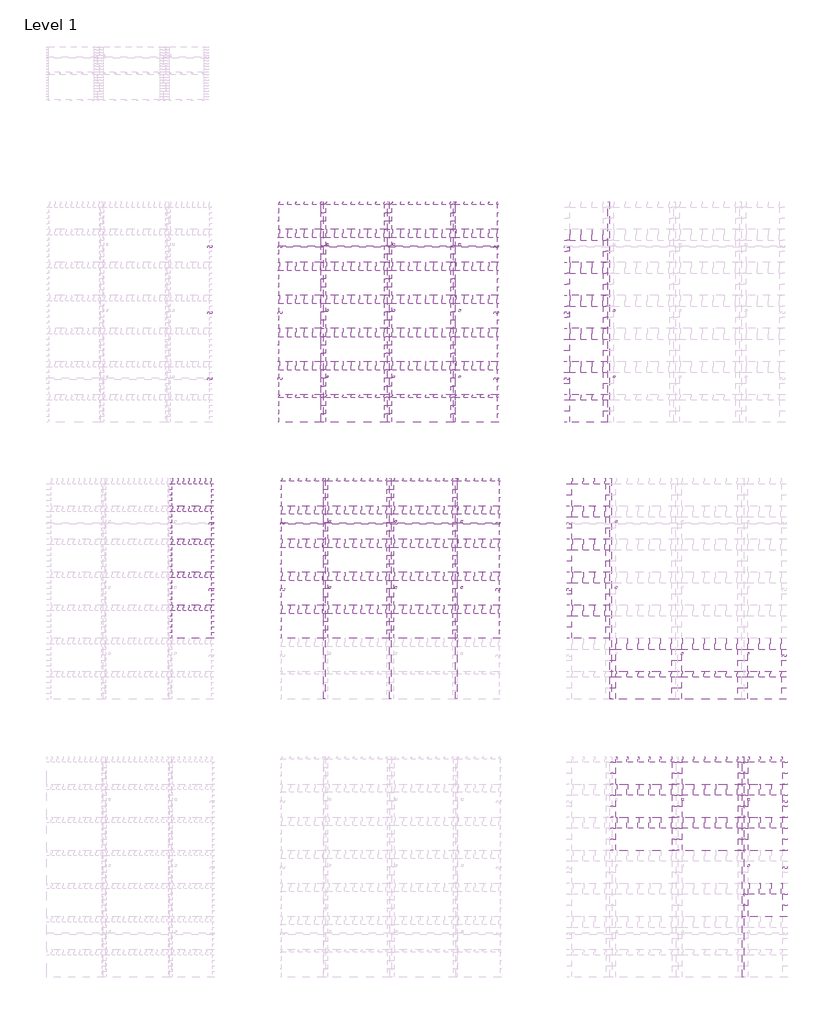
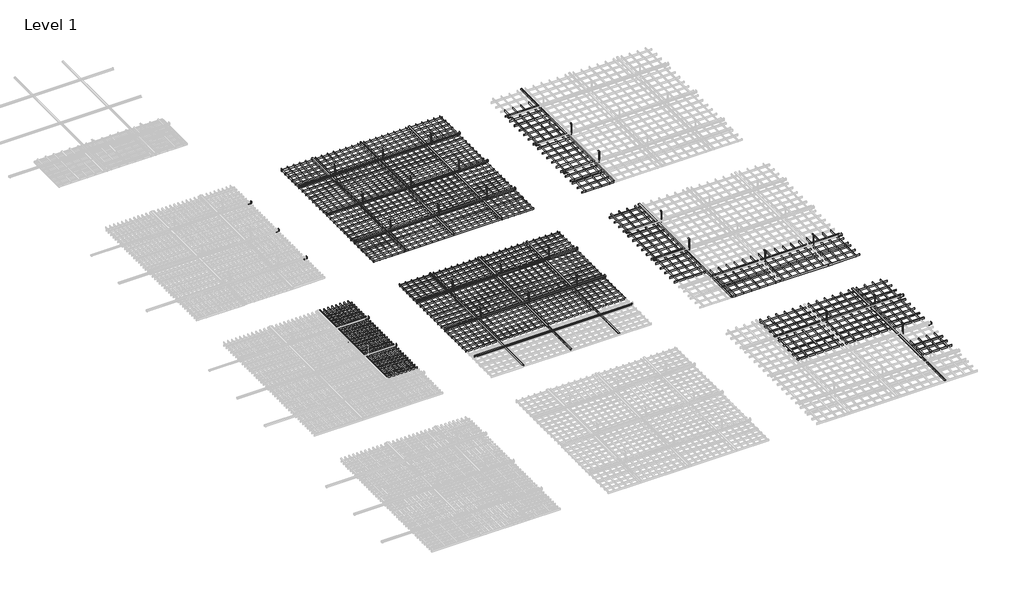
# One storey, part 14 of 32: 138 proxies.
"""IFC4 building model written with IfcOpenShell, lengths in millimetres."""

from ifc_helpers import new_model, si_unit, origin, place, context, project, spatial, transform, mapped, element, save
from components import generic_models_f4ce44e0, generic_models_375b31eb, generic_models_111ba9e5, generic_models_5e62fee5, generic_models_cd8084ed, generic_models_6ed68c57, generic_models_748fdbd1, generic_models_deb741b8, generic_models_ab05f4b6, generic_models_ed86a27e, generic_models_a98fa060, generic_models_6487c8f3, generic_models_493e9e8c, generic_models_892cdaf6, generic_models_71c4b85c, generic_models_6bcacae0, generic_models_22f2553a, generic_models_6d0d0a9c, generic_models_cc0eb073, generic_models_c5b66b1f, generic_models_3ca765b0, generic_models_711bea8a, generic_models_0913f8e8, generic_models_f6474ad0, generic_models_28f6a95c, generic_models_9e18e937

model = new_model("IFC4")

# Units and contexts
model_context = context("Model", 3, world=origin())
ifc_project = project(units=[si_unit("LENGTHUNIT", "METRE", prefix="MILLI")], contexts=[model_context])

# Site, building, storey
site = spatial("IfcSite", under=ifc_project)
building = spatial("IfcBuilding", under=site)
storey = spatial("IfcBuildingStorey", under=building, Name="Level 1", Elevation=0.0)

# Proxies
placement = place(None, origin())
generic_models_shape = generic_models_f4ce44e0(model_context)
element("IfcBuildingElementProxy", 1, Name="durlum_U94 : durlum_U94", ObjectType="durlum_U94 : durlum_U94", at=placement, inside=storey, context=model_context, shape_type="MappedRepresentation", body=[
    mapped(generic_models_shape, transform((51574.5159714, -2089.6204758, 3724.0), x_axis=(0.0, 1.0, 0.0), y_axis=(-1.0, 0.0, 0.0), z_axis=(0.0, 0.0, 1.0))),
])
element("IfcBuildingElementProxy", 2, Name="durlum_U94 : durlum_U94", ObjectType="durlum_U94 : durlum_U94", at=placement, inside=storey, context=model_context, shape_type="MappedRepresentation", body=[
    mapped(generic_models_shape, transform((50374.5159714, -2089.6204758, 3724.0), x_axis=(0.0, 1.0, 0.0), y_axis=(-1.0, 0.0, 0.0), z_axis=(0.0, 0.0, 1.0))),
])
element("IfcBuildingElementProxy", 3, Name="durlum_U94 : durlum_U94", ObjectType="durlum_U94 : durlum_U94", at=placement, inside=storey, context=model_context, shape_type="MappedRepresentation", body=[
    mapped(generic_models_shape, transform((52774.5159714, -2089.6204758, 3724.0), x_axis=(0.0, 1.0, 0.0), y_axis=(-1.0, 0.0, 0.0), z_axis=(0.0, 0.0, 1.0))),
])
element("IfcBuildingElementProxy", 4, Name="durlum_U94 : durlum_U94", ObjectType="durlum_U94 : durlum_U94", at=placement, inside=storey, context=model_context, shape_type="MappedRepresentation", body=[
    mapped(generic_models_shape, transform((51612.2666746, -7112.09776, 3724.0), x_axis=(0.0, 1.0, 0.0), y_axis=(-1.0, 0.0, 0.0), z_axis=(0.0, 0.0, 1.0))),
])
element("IfcBuildingElementProxy", 5, Name="durlum_U94 : durlum_U94", ObjectType="durlum_U94 : durlum_U94", at=placement, inside=storey, context=model_context, shape_type="MappedRepresentation", body=[
    mapped(generic_models_shape, transform((50412.2666746, -7112.09776, 3724.0), x_axis=(0.0, 1.0, 0.0), y_axis=(-1.0, 0.0, 0.0), z_axis=(0.0, 0.0, 1.0))),
])
element("IfcBuildingElementProxy", 6, Name="durlum_U94 : durlum_U94", ObjectType="durlum_U94 : durlum_U94", at=placement, inside=storey, context=model_context, shape_type="MappedRepresentation", body=[
    mapped(generic_models_shape, transform((52812.2666746, -7112.09776, 3724.0), x_axis=(0.0, 1.0, 0.0), y_axis=(-1.0, 0.0, 0.0), z_axis=(0.0, 0.0, 1.0))),
])
element("IfcBuildingElementProxy", 7, Name="durlum_U94 : durlum_U94", ObjectType="durlum_U94 : durlum_U94", at=placement, inside=storey, context=model_context, shape_type="MappedRepresentation", body=[
    mapped(generic_models_shape, transform((55574.5159714, -2089.6204758, 3724.0), x_axis=(0.0, 1.0, 0.0), y_axis=(-1.0, 0.0, 0.0), z_axis=(0.0, 0.0, 1.0))),
])
element("IfcBuildingElementProxy", 8, Name="durlum_U94 : durlum_U94", ObjectType="durlum_U94 : durlum_U94", at=placement, inside=storey, context=model_context, shape_type="MappedRepresentation", body=[
    mapped(generic_models_shape, transform((55612.2666746, -7112.09776, 3724.0), x_axis=(0.0, 1.0, 0.0), y_axis=(-1.0, 0.0, 0.0), z_axis=(0.0, 0.0, 1.0))),
])
element("IfcBuildingElementProxy", 9, Name="durlum_U94 : durlum_U94", ObjectType="durlum_U94 : durlum_U94", at=placement, inside=storey, context=model_context, shape_type="MappedRepresentation", body=[
    mapped(generic_models_shape, transform((58018.6409714, -12159.3698822, 3724.0), x_axis=(0.0, 1.0, 0.0), y_axis=(-1.0, 0.0, 0.0), z_axis=(0.0, 0.0, 1.0))),
])
generic_models_2_shape = generic_models_375b31eb(model_context)
element("IfcBuildingElementProxy", 10, Name="durlum_GEO_panel : durlum_GEO_9", ObjectType="durlum_GEO_panel : durlum_GEO_9", at=placement, inside=storey, context=model_context, shape_type="MappedRepresentation", body=[
    mapped(generic_models_2_shape, transform((51012.2666746, -7712.09776, 3700.0), x_axis=(1.0, 0.0, 0.0), y_axis=(0.0, 1.0, 0.0), z_axis=(0.0, 0.0, 1.0))),
])
element("IfcBuildingElementProxy", 11, Name="durlum_GEO_panel : durlum_GEO_9", ObjectType="durlum_GEO_panel : durlum_GEO_9", at=placement, inside=storey, context=model_context, shape_type="MappedRepresentation", body=[
    mapped(generic_models_2_shape, transform((52212.2666746, -7712.09776, 3700.0), x_axis=(1.0, 0.0, 0.0), y_axis=(0.0, 1.0, 0.0), z_axis=(0.0, 0.0, 1.0))),
])
element("IfcBuildingElementProxy", 12, Name="durlum_GEO_panel : durlum_GEO_9", ObjectType="durlum_GEO_panel : durlum_GEO_9", at=placement, inside=storey, context=model_context, shape_type="MappedRepresentation", body=[
    mapped(generic_models_2_shape, transform((51012.2666746, -7112.09776, 3700.0), x_axis=(1.0, 0.0, 0.0), y_axis=(0.0, 1.0, 0.0), z_axis=(0.0, 0.0, 1.0))),
])
element("IfcBuildingElementProxy", 13, Name="durlum_GEO_panel : durlum_GEO_9", ObjectType="durlum_GEO_panel : durlum_GEO_9", at=placement, inside=storey, context=model_context, shape_type="MappedRepresentation", body=[
    mapped(generic_models_2_shape, transform((52212.2666746, -7112.09776, 3700.0), x_axis=(1.0, 0.0, 0.0), y_axis=(0.0, 1.0, 0.0), z_axis=(0.0, 0.0, 1.0))),
])
element("IfcBuildingElementProxy", 14, Name="durlum_GEO_panel : durlum_GEO_9", ObjectType="durlum_GEO_panel : durlum_GEO_9", at=placement, inside=storey, context=model_context, shape_type="MappedRepresentation", body=[
    mapped(generic_models_2_shape, transform((51012.2666746, -6512.09776, 3700.0), x_axis=(1.0, 0.0, 0.0), y_axis=(0.0, 1.0, 0.0), z_axis=(0.0, 0.0, 1.0))),
])
element("IfcBuildingElementProxy", 15, Name="durlum_GEO_panel : durlum_GEO_9", ObjectType="durlum_GEO_panel : durlum_GEO_9", at=placement, inside=storey, context=model_context, shape_type="MappedRepresentation", body=[
    mapped(generic_models_2_shape, transform((52212.2666746, -6512.09776, 3700.0), x_axis=(1.0, 0.0, 0.0), y_axis=(0.0, 1.0, 0.0), z_axis=(0.0, 0.0, 1.0))),
])
element("IfcBuildingElementProxy", 16, Name="durlum_GEO_panel : durlum_GEO_9", ObjectType="durlum_GEO_panel : durlum_GEO_9", at=placement, inside=storey, context=model_context, shape_type="MappedRepresentation", body=[
    mapped(generic_models_2_shape, transform((51012.2666746, -5912.09776, 3700.0), x_axis=(1.0, 0.0, 0.0), y_axis=(0.0, 1.0, 0.0), z_axis=(0.0, 0.0, 1.0))),
])
element("IfcBuildingElementProxy", 17, Name="durlum_GEO_panel : durlum_GEO_9", ObjectType="durlum_GEO_panel : durlum_GEO_9", at=placement, inside=storey, context=model_context, shape_type="MappedRepresentation", body=[
    mapped(generic_models_2_shape, transform((52212.2666746, -5912.09776, 3700.0), x_axis=(1.0, 0.0, 0.0), y_axis=(0.0, 1.0, 0.0), z_axis=(0.0, 0.0, 1.0))),
])
generic_models_3_shape = generic_models_111ba9e5(model_context)
element("IfcBuildingElementProxy", 18, Name="durlum_GEO_panel : durlum_GEO_9_width_cut", ObjectType="durlum_GEO_panel : durlum_GEO_9_width_cut", at=placement, inside=storey, context=model_context, shape_type="MappedRepresentation", body=[
    mapped(generic_models_3_shape, transform((51012.2666746, -5362.09776, 3700.0), x_axis=(1.0, 0.0, 0.0), y_axis=(0.0, 1.0, 0.0), z_axis=(0.0, 0.0, 1.0))),
])
element("IfcBuildingElementProxy", 19, Name="durlum_GEO_panel : durlum_GEO_9_width_cut", ObjectType="durlum_GEO_panel : durlum_GEO_9_width_cut", at=placement, inside=storey, context=model_context, shape_type="MappedRepresentation", body=[
    mapped(generic_models_3_shape, transform((52212.2666746, -5362.09776, 3700.0), x_axis=(1.0, 0.0, 0.0), y_axis=(0.0, 1.0, 0.0), z_axis=(0.0, 0.0, 1.0))),
])
generic_models_4_shape = generic_models_5e62fee5(model_context)
element("IfcBuildingElementProxy", 20, Name="durlum_GEO_panel : durlum_GEO_4", ObjectType="durlum_GEO_panel : durlum_GEO_4", at=placement, inside=storey, context=model_context, shape_type="MappedRepresentation", body=[
    mapped(generic_models_4_shape, transform((50974.5159714, -2689.6204758, 3700.0), x_axis=(1.0, 0.0, 0.0), y_axis=(0.0, 1.0, 0.0), z_axis=(0.0, 0.0, 1.0))),
])
element("IfcBuildingElementProxy", 21, Name="durlum_GEO_panel : durlum_GEO_4", ObjectType="durlum_GEO_panel : durlum_GEO_4", at=placement, inside=storey, context=model_context, shape_type="MappedRepresentation", body=[
    mapped(generic_models_4_shape, transform((52174.5159714, -2689.6204758, 3700.0), x_axis=(1.0, 0.0, 0.0), y_axis=(0.0, 1.0, 0.0), z_axis=(0.0, 0.0, 1.0))),
])
element("IfcBuildingElementProxy", 22, Name="durlum_GEO_panel : durlum_GEO_4", ObjectType="durlum_GEO_panel : durlum_GEO_4", at=placement, inside=storey, context=model_context, shape_type="MappedRepresentation", body=[
    mapped(generic_models_4_shape, transform((50974.5159714, -2089.6204758, 3700.0), x_axis=(1.0, 0.0, 0.0), y_axis=(0.0, 1.0, 0.0), z_axis=(0.0, 0.0, 1.0))),
])
element("IfcBuildingElementProxy", 23, Name="durlum_GEO_panel : durlum_GEO_4", ObjectType="durlum_GEO_panel : durlum_GEO_4", at=placement, inside=storey, context=model_context, shape_type="MappedRepresentation", body=[
    mapped(generic_models_4_shape, transform((52174.5159714, -2089.6204758, 3700.0), x_axis=(1.0, 0.0, 0.0), y_axis=(0.0, 1.0, 0.0), z_axis=(0.0, 0.0, 1.0))),
])
element("IfcBuildingElementProxy", 24, Name="durlum_GEO_panel : durlum_GEO_4", ObjectType="durlum_GEO_panel : durlum_GEO_4", at=placement, inside=storey, context=model_context, shape_type="MappedRepresentation", body=[
    mapped(generic_models_4_shape, transform((50974.5159714, -1489.6204758, 3700.0), x_axis=(1.0, 0.0, 0.0), y_axis=(0.0, 1.0, 0.0), z_axis=(0.0, 0.0, 1.0))),
])
element("IfcBuildingElementProxy", 25, Name="durlum_GEO_panel : durlum_GEO_4", ObjectType="durlum_GEO_panel : durlum_GEO_4", at=placement, inside=storey, context=model_context, shape_type="MappedRepresentation", body=[
    mapped(generic_models_4_shape, transform((52174.5159714, -1489.6204758, 3700.0), x_axis=(1.0, 0.0, 0.0), y_axis=(0.0, 1.0, 0.0), z_axis=(0.0, 0.0, 1.0))),
])
element("IfcBuildingElementProxy", 26, Name="durlum_GEO_panel : durlum_GEO_4", ObjectType="durlum_GEO_panel : durlum_GEO_4", at=placement, inside=storey, context=model_context, shape_type="MappedRepresentation", body=[
    mapped(generic_models_4_shape, transform((50974.5159714, -889.6204758, 3700.0), x_axis=(1.0, 0.0, 0.0), y_axis=(0.0, 1.0, 0.0), z_axis=(0.0, 0.0, 1.0))),
])
element("IfcBuildingElementProxy", 27, Name="durlum_GEO_panel : durlum_GEO_4", ObjectType="durlum_GEO_panel : durlum_GEO_4", at=placement, inside=storey, context=model_context, shape_type="MappedRepresentation", body=[
    mapped(generic_models_4_shape, transform((52174.5159714, -889.6204758, 3700.0), x_axis=(1.0, 0.0, 0.0), y_axis=(0.0, 1.0, 0.0), z_axis=(0.0, 0.0, 1.0))),
])
element("IfcBuildingElementProxy", 28, Name="durlum_GEO_panel : durlum_GEO_4", ObjectType="durlum_GEO_panel : durlum_GEO_4", at=placement, inside=storey, context=model_context, shape_type="MappedRepresentation", body=[
    mapped(generic_models_4_shape, transform((50974.5159714, -3289.6204758, 3700.0), x_axis=(1.0, 0.0, 0.0), y_axis=(0.0, 1.0, 0.0), z_axis=(0.0, 0.0, 1.0))),
])
element("IfcBuildingElementProxy", 29, Name="durlum_GEO_panel : durlum_GEO_4", ObjectType="durlum_GEO_panel : durlum_GEO_4", at=placement, inside=storey, context=model_context, shape_type="MappedRepresentation", body=[
    mapped(generic_models_4_shape, transform((52174.5159714, -3289.6204758, 3700.0), x_axis=(1.0, 0.0, 0.0), y_axis=(0.0, 1.0, 0.0), z_axis=(0.0, 0.0, 1.0))),
])
generic_models_5_shape = generic_models_cd8084ed(model_context)
element("IfcBuildingElementProxy", 30, Name="durlum_GEO_panel : durlum_GEO_4_width_cut", ObjectType="durlum_GEO_panel : durlum_GEO_4_width_cut", at=placement, inside=storey, context=model_context, shape_type="MappedRepresentation", body=[
    mapped(generic_models_5_shape, transform((50974.5159714, -3839.6204758, 3700.0), x_axis=(1.0, 0.0, 0.0), y_axis=(0.0, 1.0, 0.0), z_axis=(0.0, 0.0, 1.0))),
])
element("IfcBuildingElementProxy", 31, Name="durlum_GEO_panel : durlum_GEO_4_width_cut", ObjectType="durlum_GEO_panel : durlum_GEO_4_width_cut", at=placement, inside=storey, context=model_context, shape_type="MappedRepresentation", body=[
    mapped(generic_models_5_shape, transform((50974.5159714, -339.6204758, 3700.0), x_axis=(1.0, 0.0, 0.0), y_axis=(0.0, 1.0, 0.0), z_axis=(0.0, 0.0, 1.0))),
])
element("IfcBuildingElementProxy", 32, Name="durlum_GEO_panel : durlum_GEO_4_width_cut", ObjectType="durlum_GEO_panel : durlum_GEO_4_width_cut", at=placement, inside=storey, context=model_context, shape_type="MappedRepresentation", body=[
    mapped(generic_models_5_shape, transform((52174.5159714, -3839.6204758, 3700.0), x_axis=(1.0, 0.0, 0.0), y_axis=(0.0, 1.0, 0.0), z_axis=(0.0, 0.0, 1.0))),
])
element("IfcBuildingElementProxy", 33, Name="durlum_GEO_panel : durlum_GEO_4_width_cut", ObjectType="durlum_GEO_panel : durlum_GEO_4_width_cut", at=placement, inside=storey, context=model_context, shape_type="MappedRepresentation", body=[
    mapped(generic_models_5_shape, transform((52174.5159714, -339.6204758, 3700.0), x_axis=(1.0, 0.0, 0.0), y_axis=(0.0, 1.0, 0.0), z_axis=(0.0, 0.0, 1.0))),
])
generic_models_6_shape = generic_models_6ed68c57(model_context)
element("IfcBuildingElementProxy", 34, Name="durlum_GEO_panel : durlum_GEO_9", ObjectType="durlum_GEO_panel : durlum_GEO_9", at=placement, inside=storey, context=model_context, shape_type="MappedRepresentation", body=[
    mapped(generic_models_6_shape, transform((56212.2666746, -8312.09776, 3700.0), x_axis=(1.0, 0.0, 0.0), y_axis=(0.0, 1.0, 0.0), z_axis=(0.0, 0.0, 1.0))),
])
element("IfcBuildingElementProxy", 35, Name="durlum_GEO_panel : durlum_GEO_9", ObjectType="durlum_GEO_panel : durlum_GEO_9", at=placement, inside=storey, context=model_context, shape_type="MappedRepresentation", body=[
    mapped(generic_models_6_shape, transform((57412.2666746, -8312.09776, 3700.0), x_axis=(1.0, 0.0, 0.0), y_axis=(0.0, 1.0, 0.0), z_axis=(0.0, 0.0, 1.0))),
])
generic_models_7_shape = generic_models_748fdbd1(model_context)
element("IfcBuildingElementProxy", 36, Name="durlum_GEO_panel : durlum_GEO_9_width_cut", ObjectType="durlum_GEO_panel : durlum_GEO_9_width_cut", at=placement, inside=storey, context=model_context, shape_type="MappedRepresentation", body=[
    mapped(generic_models_7_shape, transform((56212.2666746, -8862.09776, 3700.0), x_axis=(1.0, 0.0, 0.0), y_axis=(0.0, 1.0, 0.0), z_axis=(0.0, 0.0, 1.0))),
])
element("IfcBuildingElementProxy", 37, Name="durlum_GEO_panel : durlum_GEO_9_width_cut", ObjectType="durlum_GEO_panel : durlum_GEO_9_width_cut", at=placement, inside=storey, context=model_context, shape_type="MappedRepresentation", body=[
    mapped(generic_models_7_shape, transform((57412.2666746, -8862.09776, 3700.0), x_axis=(1.0, 0.0, 0.0), y_axis=(0.0, 1.0, 0.0), z_axis=(0.0, 0.0, 1.0))),
])
generic_models_8_shape = generic_models_deb741b8(model_context)
element("IfcBuildingElementProxy", 38, Name="durlum_GEO_panel : durlum_GEO_15", ObjectType="durlum_GEO_panel : durlum_GEO_15", at=placement, inside=storey, context=model_context, shape_type="MappedRepresentation", body=[
    mapped(generic_models_8_shape, transform((56218.6409714, -11559.3698822, 3700.0), x_axis=(1.0, 0.0, 0.0), y_axis=(0.0, 1.0, 0.0), z_axis=(0.0, 0.0, 1.0))),
])
element("IfcBuildingElementProxy", 39, Name="durlum_GEO_panel : durlum_GEO_15", ObjectType="durlum_GEO_panel : durlum_GEO_15", at=placement, inside=storey, context=model_context, shape_type="MappedRepresentation", body=[
    mapped(generic_models_8_shape, transform((57418.6409714, -11559.3698822, 3700.0), x_axis=(1.0, 0.0, 0.0), y_axis=(0.0, 1.0, 0.0), z_axis=(0.0, 0.0, 1.0))),
])
element("IfcBuildingElementProxy", 40, Name="durlum_GEO_panel : durlum_GEO_15", ObjectType="durlum_GEO_panel : durlum_GEO_15", at=placement, inside=storey, context=model_context, shape_type="MappedRepresentation", body=[
    mapped(generic_models_8_shape, transform((56218.6409714, -10959.3698822, 3700.0), x_axis=(1.0, 0.0, 0.0), y_axis=(0.0, 1.0, 0.0), z_axis=(0.0, 0.0, 1.0))),
])
element("IfcBuildingElementProxy", 41, Name="durlum_GEO_panel : durlum_GEO_15", ObjectType="durlum_GEO_panel : durlum_GEO_15", at=placement, inside=storey, context=model_context, shape_type="MappedRepresentation", body=[
    mapped(generic_models_8_shape, transform((57418.6409714, -10959.3698822, 3700.0), x_axis=(1.0, 0.0, 0.0), y_axis=(0.0, 1.0, 0.0), z_axis=(0.0, 0.0, 1.0))),
])
generic_models_9_shape = generic_models_ab05f4b6(model_context)
element("IfcBuildingElementProxy", 42, Name="durlum_GEO_panel : durlum_GEO_15_width_cut", ObjectType="durlum_GEO_panel : durlum_GEO_15_width_cut", at=placement, inside=storey, context=model_context, shape_type="MappedRepresentation", body=[
    mapped(generic_models_9_shape, transform((56218.6409714, -10409.3698822, 3700.0), x_axis=(1.0, 0.0, 0.0), y_axis=(0.0, 1.0, 0.0), z_axis=(0.0, 0.0, 1.0))),
])
element("IfcBuildingElementProxy", 43, Name="durlum_GEO_panel : durlum_GEO_15_width_cut", ObjectType="durlum_GEO_panel : durlum_GEO_15_width_cut", at=placement, inside=storey, context=model_context, shape_type="MappedRepresentation", body=[
    mapped(generic_models_9_shape, transform((57418.6409714, -10409.3698822, 3700.0), x_axis=(1.0, 0.0, 0.0), y_axis=(0.0, 1.0, 0.0), z_axis=(0.0, 0.0, 1.0))),
])
generic_models_10_shape = generic_models_ed86a27e(model_context)
element("IfcBuildingElementProxy", 44, Name="durlum_GEO_4 : durlum_GEO_4", ObjectType="durlum_GEO_4 : durlum_GEO_4", at=placement, inside=storey, context=model_context, shape_type="MappedRepresentation", body=[
    mapped(generic_models_10_shape, transform((51574.5159714, -2089.6204758, 0.0), x_axis=(1.0, 0.0, 0.0), y_axis=(0.0, 1.0, 0.0), z_axis=(0.0, 0.0, 1.0))),
])
generic_models_11_shape = generic_models_a98fa060(model_context)
element("IfcBuildingElementProxy", 45, Name="durlum_GEO_panel : durlum_GEO_4_length_cut", ObjectType="durlum_GEO_panel : durlum_GEO_4_length_cut", at=placement, inside=storey, context=model_context, shape_type="MappedRepresentation", body=[
    mapped(generic_models_11_shape, transform((49974.2659714, -1489.6204758, 3700.0), x_axis=(1.0, 0.0, 0.0), y_axis=(0.0, 1.0, 0.0), z_axis=(0.0, 0.0, 1.0))),
])
element("IfcBuildingElementProxy", 46, Name="durlum_GEO_panel : durlum_GEO_4_length_cut", ObjectType="durlum_GEO_panel : durlum_GEO_4_length_cut", at=placement, inside=storey, context=model_context, shape_type="MappedRepresentation", body=[
    mapped(generic_models_11_shape, transform((49974.2659714, -2089.6204758, 3700.0), x_axis=(1.0, 0.0, 0.0), y_axis=(0.0, 1.0, 0.0), z_axis=(0.0, 0.0, 1.0))),
])
element("IfcBuildingElementProxy", 47, Name="durlum_GEO_panel : durlum_GEO_4_length_cut", ObjectType="durlum_GEO_panel : durlum_GEO_4_length_cut", at=placement, inside=storey, context=model_context, shape_type="MappedRepresentation", body=[
    mapped(generic_models_11_shape, transform((49974.2659714, -2689.6204758, 3700.0), x_axis=(1.0, 0.0, 0.0), y_axis=(0.0, 1.0, 0.0), z_axis=(0.0, 0.0, 1.0))),
])
element("IfcBuildingElementProxy", 48, Name="durlum_GEO_panel : durlum_GEO_4_length_cut", ObjectType="durlum_GEO_panel : durlum_GEO_4_length_cut", at=placement, inside=storey, context=model_context, shape_type="MappedRepresentation", body=[
    mapped(generic_models_11_shape, transform((53174.7659714, -1489.6204758, 3700.0), x_axis=(1.0, 0.0, 0.0), y_axis=(0.0, 1.0, 0.0), z_axis=(0.0, 0.0, 1.0))),
])
element("IfcBuildingElementProxy", 49, Name="durlum_GEO_panel : durlum_GEO_4_length_cut", ObjectType="durlum_GEO_panel : durlum_GEO_4_length_cut", at=placement, inside=storey, context=model_context, shape_type="MappedRepresentation", body=[
    mapped(generic_models_11_shape, transform((53174.7659714, -2089.6204758, 3700.0), x_axis=(1.0, 0.0, 0.0), y_axis=(0.0, 1.0, 0.0), z_axis=(0.0, 0.0, 1.0))),
])
element("IfcBuildingElementProxy", 50, Name="durlum_GEO_panel : durlum_GEO_4_length_cut", ObjectType="durlum_GEO_panel : durlum_GEO_4_length_cut", at=placement, inside=storey, context=model_context, shape_type="MappedRepresentation", body=[
    mapped(generic_models_11_shape, transform((53174.7659714, -2689.6204758, 3700.0), x_axis=(1.0, 0.0, 0.0), y_axis=(0.0, 1.0, 0.0), z_axis=(0.0, 0.0, 1.0))),
])
element("IfcBuildingElementProxy", 51, Name="durlum_GEO_panel : durlum_GEO_4_length_cut", ObjectType="durlum_GEO_panel : durlum_GEO_4_length_cut", at=placement, inside=storey, context=model_context, shape_type="MappedRepresentation", body=[
    mapped(generic_models_11_shape, transform((53174.7659714, -889.6204758, 3700.0), x_axis=(1.0, 0.0, 0.0), y_axis=(0.0, 1.0, 0.0), z_axis=(0.0, 0.0, 1.0))),
])
element("IfcBuildingElementProxy", 52, Name="durlum_GEO_panel : durlum_GEO_4_length_cut", ObjectType="durlum_GEO_panel : durlum_GEO_4_length_cut", at=placement, inside=storey, context=model_context, shape_type="MappedRepresentation", body=[
    mapped(generic_models_11_shape, transform((49974.2659714, -889.6204758, 3700.0), x_axis=(1.0, 0.0, 0.0), y_axis=(0.0, 1.0, 0.0), z_axis=(0.0, 0.0, 1.0))),
])
element("IfcBuildingElementProxy", 53, Name="durlum_GEO_panel : durlum_GEO_4_length_cut", ObjectType="durlum_GEO_panel : durlum_GEO_4_length_cut", at=placement, inside=storey, context=model_context, shape_type="MappedRepresentation", body=[
    mapped(generic_models_11_shape, transform((49974.2659714, -3289.6204758, 3700.0), x_axis=(1.0, 0.0, 0.0), y_axis=(0.0, 1.0, 0.0), z_axis=(0.0, 0.0, 1.0))),
])
element("IfcBuildingElementProxy", 54, Name="durlum_GEO_panel : durlum_GEO_4_length_cut", ObjectType="durlum_GEO_panel : durlum_GEO_4_length_cut", at=placement, inside=storey, context=model_context, shape_type="MappedRepresentation", body=[
    mapped(generic_models_11_shape, transform((53174.7659714, -3289.6204758, 3700.0), x_axis=(1.0, 0.0, 0.0), y_axis=(0.0, 1.0, 0.0), z_axis=(0.0, 0.0, 1.0))),
])
generic_models_12_shape = generic_models_6487c8f3(model_context)
element("IfcBuildingElementProxy", 55, Name="durlum_GEO_panel : durlum_GEO_4_corner_cut", ObjectType="durlum_GEO_panel : durlum_GEO_4_corner_cut", at=placement, inside=storey, context=model_context, shape_type="MappedRepresentation", body=[
    mapped(generic_models_12_shape, transform((53174.7659714, -339.6204758, 3700.0), x_axis=(1.0, 0.0, 0.0), y_axis=(0.0, 1.0, 0.0), z_axis=(0.0, 0.0, 1.0))),
])
element("IfcBuildingElementProxy", 56, Name="durlum_GEO_panel : durlum_GEO_4_corner_cut", ObjectType="durlum_GEO_panel : durlum_GEO_4_corner_cut", at=placement, inside=storey, context=model_context, shape_type="MappedRepresentation", body=[
    mapped(generic_models_12_shape, transform((49974.2659714, -339.6204758, 3700.0), x_axis=(1.0, 0.0, 0.0), y_axis=(0.0, 1.0, 0.0), z_axis=(0.0, 0.0, 1.0))),
])
element("IfcBuildingElementProxy", 57, Name="durlum_GEO_panel : durlum_GEO_4_corner_cut", ObjectType="durlum_GEO_panel : durlum_GEO_4_corner_cut", at=placement, inside=storey, context=model_context, shape_type="MappedRepresentation", body=[
    mapped(generic_models_12_shape, transform((49974.2659714, -3839.6204758, 3700.0), x_axis=(1.0, 0.0, 0.0), y_axis=(0.0, 1.0, 0.0), z_axis=(0.0, 0.0, 1.0))),
])
element("IfcBuildingElementProxy", 58, Name="durlum_GEO_panel : durlum_GEO_4_corner_cut", ObjectType="durlum_GEO_panel : durlum_GEO_4_corner_cut", at=placement, inside=storey, context=model_context, shape_type="MappedRepresentation", body=[
    mapped(generic_models_12_shape, transform((53174.7659714, -3839.6204758, 3700.0), x_axis=(1.0, 0.0, 0.0), y_axis=(0.0, 1.0, 0.0), z_axis=(0.0, 0.0, 1.0))),
])
generic_models_13_shape = generic_models_493e9e8c(model_context)
element("IfcBuildingElementProxy", 59, Name="durlum_GEO_panel : durlum_GEO_4_length_cut", ObjectType="durlum_GEO_panel : durlum_GEO_4_length_cut", at=placement, inside=storey, context=model_context, shape_type="MappedRepresentation", body=[
    mapped(generic_models_13_shape, transform((55174.2659714, -1489.6204758, 3700.0), x_axis=(1.0, 0.0, 0.0), y_axis=(0.0, 1.0, 0.0), z_axis=(0.0, 0.0, 1.0))),
])
element("IfcBuildingElementProxy", 60, Name="durlum_GEO_panel : durlum_GEO_4_length_cut", ObjectType="durlum_GEO_panel : durlum_GEO_4_length_cut", at=placement, inside=storey, context=model_context, shape_type="MappedRepresentation", body=[
    mapped(generic_models_13_shape, transform((55174.2659714, -2089.6204758, 3700.0), x_axis=(1.0, 0.0, 0.0), y_axis=(0.0, 1.0, 0.0), z_axis=(0.0, 0.0, 1.0))),
])
element("IfcBuildingElementProxy", 61, Name="durlum_GEO_panel : durlum_GEO_4_length_cut", ObjectType="durlum_GEO_panel : durlum_GEO_4_length_cut", at=placement, inside=storey, context=model_context, shape_type="MappedRepresentation", body=[
    mapped(generic_models_13_shape, transform((55174.2659714, -2689.6204758, 3700.0), x_axis=(1.0, 0.0, 0.0), y_axis=(0.0, 1.0, 0.0), z_axis=(0.0, 0.0, 1.0))),
])
element("IfcBuildingElementProxy", 62, Name="durlum_GEO_panel : durlum_GEO_4_length_cut", ObjectType="durlum_GEO_panel : durlum_GEO_4_length_cut", at=placement, inside=storey, context=model_context, shape_type="MappedRepresentation", body=[
    mapped(generic_models_13_shape, transform((55174.2659714, -889.6204758, 3700.0), x_axis=(1.0, 0.0, 0.0), y_axis=(0.0, 1.0, 0.0), z_axis=(0.0, 0.0, 1.0))),
])
element("IfcBuildingElementProxy", 63, Name="durlum_GEO_panel : durlum_GEO_4_length_cut", ObjectType="durlum_GEO_panel : durlum_GEO_4_length_cut", at=placement, inside=storey, context=model_context, shape_type="MappedRepresentation", body=[
    mapped(generic_models_13_shape, transform((55174.2659714, -3289.6204758, 3700.0), x_axis=(1.0, 0.0, 0.0), y_axis=(0.0, 1.0, 0.0), z_axis=(0.0, 0.0, 1.0))),
])
generic_models_14_shape = generic_models_892cdaf6(model_context)
element("IfcBuildingElementProxy", 64, Name="durlum_GEO_panel : durlum_GEO_4_corner_cut", ObjectType="durlum_GEO_panel : durlum_GEO_4_corner_cut", at=placement, inside=storey, context=model_context, shape_type="MappedRepresentation", body=[
    mapped(generic_models_14_shape, transform((55174.2659714, -3839.6204758, 3700.0), x_axis=(1.0, 0.0, 0.0), y_axis=(0.0, 1.0, 0.0), z_axis=(0.0, 0.0, 1.0))),
])
generic_models_15_shape = generic_models_71c4b85c(model_context)
element("IfcBuildingElementProxy", 65, Name="durlum_GEO_panel : durlum_GEO_9_length_cut", ObjectType="durlum_GEO_panel : durlum_GEO_9_length_cut", at=placement, inside=storey, context=model_context, shape_type="MappedRepresentation", body=[
    mapped(generic_models_15_shape, transform((48009.3295262, -6512.09776, 3700.0), x_axis=(1.0, 0.0, 0.0), y_axis=(0.0, 1.0, 0.0), z_axis=(0.0, 0.0, 1.0))),
])
element("IfcBuildingElementProxy", 66, Name="durlum_GEO_panel : durlum_GEO_9_length_cut", ObjectType="durlum_GEO_panel : durlum_GEO_9_length_cut", at=placement, inside=storey, context=model_context, shape_type="MappedRepresentation", body=[
    mapped(generic_models_15_shape, transform((48009.3295262, -7112.09776, 3700.0), x_axis=(1.0, 0.0, 0.0), y_axis=(0.0, 1.0, 0.0), z_axis=(0.0, 0.0, 1.0))),
])
element("IfcBuildingElementProxy", 67, Name="durlum_GEO_panel : durlum_GEO_9_length_cut", ObjectType="durlum_GEO_panel : durlum_GEO_9_length_cut", at=placement, inside=storey, context=model_context, shape_type="MappedRepresentation", body=[
    mapped(generic_models_15_shape, transform((48009.3295262, -7712.09776, 3700.0), x_axis=(1.0, 0.0, 0.0), y_axis=(0.0, 1.0, 0.0), z_axis=(0.0, 0.0, 1.0))),
])
element("IfcBuildingElementProxy", 68, Name="durlum_GEO_panel : durlum_GEO_9_length_cut", ObjectType="durlum_GEO_panel : durlum_GEO_9_length_cut", at=placement, inside=storey, context=model_context, shape_type="MappedRepresentation", body=[
    mapped(generic_models_15_shape, transform((48009.3295262, -5912.09776, 3700.0), x_axis=(1.0, 0.0, 0.0), y_axis=(0.0, 1.0, 0.0), z_axis=(0.0, 0.0, 1.0))),
])
generic_models_16_shape = generic_models_6bcacae0(model_context)
element("IfcBuildingElementProxy", 69, Name="durlum_GEO_panel : durlum_GEO_9_corner_cut", ObjectType="durlum_GEO_panel : durlum_GEO_9_corner_cut", at=placement, inside=storey, context=model_context, shape_type="MappedRepresentation", body=[
    mapped(generic_models_16_shape, transform((48009.3295262, -5362.09776, 3700.0), x_axis=(1.0, 0.0, 0.0), y_axis=(0.0, 1.0, 0.0), z_axis=(0.0, 0.0, 1.0))),
])
generic_models_17_shape = generic_models_22f2553a(model_context)
element("IfcBuildingElementProxy", 70, Name="durlum_GEO_9 : durlum_GEO_9", ObjectType="durlum_GEO_9 : durlum_GEO_9", at=placement, inside=storey, context=model_context, shape_type="MappedRepresentation", body=[
    mapped(generic_models_17_shape, transform((51612.2666746, -7112.09776, 0.0), x_axis=(1.0, 0.0, 0.0), y_axis=(0.0, 1.0, 0.0), z_axis=(0.0, 0.0, 1.0))),
])
generic_models_18_shape = generic_models_6d0d0a9c(model_context)
element("IfcBuildingElementProxy", 71, Name="durlum_GEO_panel : durlum_GEO_9_length_cut", ObjectType="durlum_GEO_panel : durlum_GEO_9_length_cut", at=placement, inside=storey, context=model_context, shape_type="MappedRepresentation", body=[
    mapped(generic_models_18_shape, transform((50015.203823, -6512.09776, 3700.0), x_axis=(1.0, 0.0, 0.0), y_axis=(0.0, 1.0, 0.0), z_axis=(0.0, 0.0, 1.0))),
])
element("IfcBuildingElementProxy", 72, Name="durlum_GEO_panel : durlum_GEO_9_length_cut", ObjectType="durlum_GEO_panel : durlum_GEO_9_length_cut", at=placement, inside=storey, context=model_context, shape_type="MappedRepresentation", body=[
    mapped(generic_models_18_shape, transform((50015.203823, -7112.09776, 3700.0), x_axis=(1.0, 0.0, 0.0), y_axis=(0.0, 1.0, 0.0), z_axis=(0.0, 0.0, 1.0))),
])
element("IfcBuildingElementProxy", 73, Name="durlum_GEO_panel : durlum_GEO_9_length_cut", ObjectType="durlum_GEO_panel : durlum_GEO_9_length_cut", at=placement, inside=storey, context=model_context, shape_type="MappedRepresentation", body=[
    mapped(generic_models_18_shape, transform((50015.203823, -7712.09776, 3700.0), x_axis=(1.0, 0.0, 0.0), y_axis=(0.0, 1.0, 0.0), z_axis=(0.0, 0.0, 1.0))),
])
element("IfcBuildingElementProxy", 74, Name="durlum_GEO_panel : durlum_GEO_9_length_cut", ObjectType="durlum_GEO_panel : durlum_GEO_9_length_cut", at=placement, inside=storey, context=model_context, shape_type="MappedRepresentation", body=[
    mapped(generic_models_18_shape, transform((53209.3295262, -6512.09776, 3700.0), x_axis=(1.0, 0.0, 0.0), y_axis=(0.0, 1.0, 0.0), z_axis=(0.0, 0.0, 1.0))),
])
element("IfcBuildingElementProxy", 75, Name="durlum_GEO_panel : durlum_GEO_9_length_cut", ObjectType="durlum_GEO_panel : durlum_GEO_9_length_cut", at=placement, inside=storey, context=model_context, shape_type="MappedRepresentation", body=[
    mapped(generic_models_18_shape, transform((53209.3295262, -7112.09776, 3700.0), x_axis=(1.0, 0.0, 0.0), y_axis=(0.0, 1.0, 0.0), z_axis=(0.0, 0.0, 1.0))),
])
element("IfcBuildingElementProxy", 76, Name="durlum_GEO_panel : durlum_GEO_9_length_cut", ObjectType="durlum_GEO_panel : durlum_GEO_9_length_cut", at=placement, inside=storey, context=model_context, shape_type="MappedRepresentation", body=[
    mapped(generic_models_18_shape, transform((53209.3295262, -7712.09776, 3700.0), x_axis=(1.0, 0.0, 0.0), y_axis=(0.0, 1.0, 0.0), z_axis=(0.0, 0.0, 1.0))),
])
element("IfcBuildingElementProxy", 77, Name="durlum_GEO_panel : durlum_GEO_9_length_cut", ObjectType="durlum_GEO_panel : durlum_GEO_9_length_cut", at=placement, inside=storey, context=model_context, shape_type="MappedRepresentation", body=[
    mapped(generic_models_18_shape, transform((53209.3295262, -5912.09776, 3700.0), x_axis=(1.0, 0.0, 0.0), y_axis=(0.0, 1.0, 0.0), z_axis=(0.0, 0.0, 1.0))),
])
element("IfcBuildingElementProxy", 78, Name="durlum_GEO_panel : durlum_GEO_9_length_cut", ObjectType="durlum_GEO_panel : durlum_GEO_9_length_cut", at=placement, inside=storey, context=model_context, shape_type="MappedRepresentation", body=[
    mapped(generic_models_18_shape, transform((50015.203823, -5912.09776, 3700.0), x_axis=(1.0, 0.0, 0.0), y_axis=(0.0, 1.0, 0.0), z_axis=(0.0, 0.0, 1.0))),
])
generic_models_19_shape = generic_models_cc0eb073(model_context)
element("IfcBuildingElementProxy", 79, Name="durlum_GEO_panel : durlum_GEO_9_corner_cut", ObjectType="durlum_GEO_panel : durlum_GEO_9_corner_cut", at=placement, inside=storey, context=model_context, shape_type="MappedRepresentation", body=[
    mapped(generic_models_19_shape, transform((53209.3295262, -5362.09776, 3700.0), x_axis=(1.0, 0.0, 0.0), y_axis=(0.0, 1.0, 0.0), z_axis=(0.0, 0.0, 1.0))),
])
element("IfcBuildingElementProxy", 80, Name="durlum_GEO_panel : durlum_GEO_9_corner_cut", ObjectType="durlum_GEO_panel : durlum_GEO_9_corner_cut", at=placement, inside=storey, context=model_context, shape_type="MappedRepresentation", body=[
    mapped(generic_models_19_shape, transform((50015.203823, -5362.09776, 3700.0), x_axis=(1.0, 0.0, 0.0), y_axis=(0.0, 1.0, 0.0), z_axis=(0.0, 0.0, 1.0))),
])
generic_models_20_shape = generic_models_c5b66b1f(model_context)
element("IfcBuildingElementProxy", 81, Name="durlum_GEO_panel : durlum_GEO_9_length_cut", ObjectType="durlum_GEO_panel : durlum_GEO_9_length_cut", at=placement, inside=storey, context=model_context, shape_type="MappedRepresentation", body=[
    mapped(generic_models_20_shape, transform((55215.203823, -6512.09776, 3700.0), x_axis=(1.0, 0.0, 0.0), y_axis=(0.0, 1.0, 0.0), z_axis=(0.0, 0.0, 1.0))),
])
element("IfcBuildingElementProxy", 82, Name="durlum_GEO_panel : durlum_GEO_9_length_cut", ObjectType="durlum_GEO_panel : durlum_GEO_9_length_cut", at=placement, inside=storey, context=model_context, shape_type="MappedRepresentation", body=[
    mapped(generic_models_20_shape, transform((55215.203823, -7112.09776, 3700.0), x_axis=(1.0, 0.0, 0.0), y_axis=(0.0, 1.0, 0.0), z_axis=(0.0, 0.0, 1.0))),
])
element("IfcBuildingElementProxy", 83, Name="durlum_GEO_panel : durlum_GEO_9_length_cut", ObjectType="durlum_GEO_panel : durlum_GEO_9_length_cut", at=placement, inside=storey, context=model_context, shape_type="MappedRepresentation", body=[
    mapped(generic_models_20_shape, transform((55215.203823, -7712.09776, 3700.0), x_axis=(1.0, 0.0, 0.0), y_axis=(0.0, 1.0, 0.0), z_axis=(0.0, 0.0, 1.0))),
])
element("IfcBuildingElementProxy", 84, Name="durlum_GEO_panel : durlum_GEO_9_length_cut", ObjectType="durlum_GEO_panel : durlum_GEO_9_length_cut", at=placement, inside=storey, context=model_context, shape_type="MappedRepresentation", body=[
    mapped(generic_models_20_shape, transform((55215.203823, -5912.09776, 3700.0), x_axis=(1.0, 0.0, 0.0), y_axis=(0.0, 1.0, 0.0), z_axis=(0.0, 0.0, 1.0))),
])
element("IfcBuildingElementProxy", 85, Name="durlum_GEO_panel : durlum_GEO_9_length_cut", ObjectType="durlum_GEO_panel : durlum_GEO_9_length_cut", at=placement, inside=storey, context=model_context, shape_type="MappedRepresentation", body=[
    mapped(generic_models_20_shape, transform((58409.3295262, -8312.09776, 3700.0), x_axis=(1.0, 0.0, 0.0), y_axis=(0.0, 1.0, 0.0), z_axis=(0.0, 0.0, 1.0))),
])
generic_models_21_shape = generic_models_3ca765b0(model_context)
element("IfcBuildingElementProxy", 86, Name="durlum_GEO_panel : durlum_GEO_9_corner_cut", ObjectType="durlum_GEO_panel : durlum_GEO_9_corner_cut", at=placement, inside=storey, context=model_context, shape_type="MappedRepresentation", body=[
    mapped(generic_models_21_shape, transform((55215.203823, -5362.09776, 3700.0), x_axis=(1.0, 0.0, 0.0), y_axis=(0.0, 1.0, 0.0), z_axis=(0.0, 0.0, 1.0))),
])
element("IfcBuildingElementProxy", 87, Name="durlum_GEO_panel : durlum_GEO_9_corner_cut", ObjectType="durlum_GEO_panel : durlum_GEO_9_corner_cut", at=placement, inside=storey, context=model_context, shape_type="MappedRepresentation", body=[
    mapped(generic_models_21_shape, transform((58409.3295262, -8862.09776, 3700.0), x_axis=(1.0, 0.0, 0.0), y_axis=(0.0, 1.0, 0.0), z_axis=(0.0, 0.0, 1.0))),
])
generic_models_22_shape = generic_models_711bea8a(model_context)
element("IfcBuildingElementProxy", 88, Name="durlum_GEO_panel : durlum_GEO_15_length_cut", ObjectType="durlum_GEO_panel : durlum_GEO_15_length_cut", at=placement, inside=storey, context=model_context, shape_type="MappedRepresentation", body=[
    mapped(generic_models_22_shape, transform((58418.8909714, -11559.3698822, 3700.0), x_axis=(1.0, 0.0, 0.0), y_axis=(0.0, 1.0, 0.0), z_axis=(0.0, 0.0, 1.0))),
])
element("IfcBuildingElementProxy", 89, Name="durlum_GEO_panel : durlum_GEO_15_length_cut", ObjectType="durlum_GEO_panel : durlum_GEO_15_length_cut", at=placement, inside=storey, context=model_context, shape_type="MappedRepresentation", body=[
    mapped(generic_models_22_shape, transform((58418.8909714, -12759.3698822, 3700.0), x_axis=(1.0, 0.0, 0.0), y_axis=(0.0, 1.0, 0.0), z_axis=(0.0, 0.0, 1.0))),
])
element("IfcBuildingElementProxy", 90, Name="durlum_GEO_panel : durlum_GEO_15_length_cut", ObjectType="durlum_GEO_panel : durlum_GEO_15_length_cut", at=placement, inside=storey, context=model_context, shape_type="MappedRepresentation", body=[
    mapped(generic_models_22_shape, transform((58418.8909714, -10959.3698822, 3700.0), x_axis=(1.0, 0.0, 0.0), y_axis=(0.0, 1.0, 0.0), z_axis=(0.0, 0.0, 1.0))),
])
generic_models_23_shape = generic_models_0913f8e8(model_context)
element("IfcBuildingElementProxy", 91, Name="durlum_GEO_panel : durlum_GEO_15_corner_cut", ObjectType="durlum_GEO_panel : durlum_GEO_15_corner_cut", at=placement, inside=storey, context=model_context, shape_type="MappedRepresentation", body=[
    mapped(generic_models_23_shape, transform((58418.8909714, -10409.3698822, 3700.0), x_axis=(1.0, 0.0, 0.0), y_axis=(0.0, 1.0, 0.0), z_axis=(0.0, 0.0, 1.0))),
])
generic_models_24_shape = generic_models_f6474ad0(model_context)
element("IfcBuildingElementProxy", 92, Name="durlum_U1300 : durlum_U1300", ObjectType="durlum_U1300 : durlum_U1300", at=placement, inside=storey, context=model_context, shape_type="MappedRepresentation", body=[
    mapped(generic_models_24_shape, transform((50474.5159714, -2089.6204758, 2999.4124682), x_axis=(-1.0, 0.0, 0.0), y_axis=(0.0, -1.0, 0.0), z_axis=(0.0, 0.0, 1.0))),
])
element("IfcBuildingElementProxy", 93, Name="durlum_U1300 : durlum_U1300", ObjectType="durlum_U1300 : durlum_U1300", at=placement, inside=storey, context=model_context, shape_type="MappedRepresentation", body=[
    mapped(generic_models_24_shape, transform((52874.5159714, -2089.6204758, 2999.4124682), x_axis=(-1.0, 0.0, 0.0), y_axis=(0.0, -1.0, 0.0), z_axis=(0.0, 0.0, 1.0))),
])
element("IfcBuildingElementProxy", 94, Name="durlum_U1300 : durlum_U1300", ObjectType="durlum_U1300 : durlum_U1300", at=placement, inside=storey, context=model_context, shape_type="MappedRepresentation", body=[
    mapped(generic_models_24_shape, transform((51674.5159714, -2089.6204758, 2999.4124682), x_axis=(-1.0, 0.0, 0.0), y_axis=(0.0, -1.0, 0.0), z_axis=(0.0, 0.0, 1.0))),
])
element("IfcBuildingElementProxy", 95, Name="durlum_U1300 : durlum_U1300", ObjectType="durlum_U1300 : durlum_U1300", at=placement, inside=storey, context=model_context, shape_type="MappedRepresentation", body=[
    mapped(generic_models_24_shape, transform((50474.5159714, -889.6204758, 2999.4124682), x_axis=(-1.0, 0.0, 0.0), y_axis=(0.0, -1.0, 0.0), z_axis=(0.0, 0.0, 1.0))),
])
element("IfcBuildingElementProxy", 96, Name="durlum_U1300 : durlum_U1300", ObjectType="durlum_U1300 : durlum_U1300", at=placement, inside=storey, context=model_context, shape_type="MappedRepresentation", body=[
    mapped(generic_models_24_shape, transform((52874.5159714, -889.6204758, 2999.4124682), x_axis=(-1.0, 0.0, 0.0), y_axis=(0.0, -1.0, 0.0), z_axis=(0.0, 0.0, 1.0))),
])
element("IfcBuildingElementProxy", 97, Name="durlum_U1300 : durlum_U1300", ObjectType="durlum_U1300 : durlum_U1300", at=placement, inside=storey, context=model_context, shape_type="MappedRepresentation", body=[
    mapped(generic_models_24_shape, transform((51674.5159714, -889.6204758, 2999.4124682), x_axis=(-1.0, 0.0, 0.0), y_axis=(0.0, -1.0, 0.0), z_axis=(0.0, 0.0, 1.0))),
])
element("IfcBuildingElementProxy", 98, Name="durlum_U1300 : durlum_U1300", ObjectType="durlum_U1300 : durlum_U1300", at=placement, inside=storey, context=model_context, shape_type="MappedRepresentation", body=[
    mapped(generic_models_24_shape, transform((50474.5159714, -3289.6204758, 2999.4124682), x_axis=(-1.0, 0.0, 0.0), y_axis=(0.0, -1.0, 0.0), z_axis=(0.0, 0.0, 1.0))),
])
element("IfcBuildingElementProxy", 99, Name="durlum_U1300 : durlum_U1300", ObjectType="durlum_U1300 : durlum_U1300", at=placement, inside=storey, context=model_context, shape_type="MappedRepresentation", body=[
    mapped(generic_models_24_shape, transform((52874.5159714, -3289.6204758, 2999.4124682), x_axis=(-1.0, 0.0, 0.0), y_axis=(0.0, -1.0, 0.0), z_axis=(0.0, 0.0, 1.0))),
])
element("IfcBuildingElementProxy", 100, Name="durlum_U1300 : durlum_U1300", ObjectType="durlum_U1300 : durlum_U1300", at=placement, inside=storey, context=model_context, shape_type="MappedRepresentation", body=[
    mapped(generic_models_24_shape, transform((51674.5159714, -3289.6204758, 2999.4124682), x_axis=(-1.0, 0.0, 0.0), y_axis=(0.0, -1.0, 0.0), z_axis=(0.0, 0.0, 1.0))),
])
element("IfcBuildingElementProxy", 101, Name="durlum_U1300 : durlum_U1300", ObjectType="durlum_U1300 : durlum_U1300", at=placement, inside=storey, context=model_context, shape_type="MappedRepresentation", body=[
    mapped(generic_models_24_shape, transform((50512.2666746, -7112.09776, 2999.4124682), x_axis=(-1.0, 0.0, 0.0), y_axis=(0.0, -1.0, 0.0), z_axis=(0.0, 0.0, 1.0))),
])
element("IfcBuildingElementProxy", 102, Name="durlum_U1300 : durlum_U1300", ObjectType="durlum_U1300 : durlum_U1300", at=placement, inside=storey, context=model_context, shape_type="MappedRepresentation", body=[
    mapped(generic_models_24_shape, transform((52912.2666746, -7112.09776, 2999.4124682), x_axis=(-1.0, 0.0, 0.0), y_axis=(0.0, -1.0, 0.0), z_axis=(0.0, 0.0, 1.0))),
])
element("IfcBuildingElementProxy", 103, Name="durlum_U1300 : durlum_U1300", ObjectType="durlum_U1300 : durlum_U1300", at=placement, inside=storey, context=model_context, shape_type="MappedRepresentation", body=[
    mapped(generic_models_24_shape, transform((51712.2666746, -7112.09776, 2999.4124682), x_axis=(-1.0, 0.0, 0.0), y_axis=(0.0, -1.0, 0.0), z_axis=(0.0, 0.0, 1.0))),
])
element("IfcBuildingElementProxy", 104, Name="durlum_U1300 : durlum_U1300", ObjectType="durlum_U1300 : durlum_U1300", at=placement, inside=storey, context=model_context, shape_type="MappedRepresentation", body=[
    mapped(generic_models_24_shape, transform((50512.2666746, -5912.09776, 2999.4124682), x_axis=(-1.0, 0.0, 0.0), y_axis=(0.0, -1.0, 0.0), z_axis=(0.0, 0.0, 1.0))),
])
element("IfcBuildingElementProxy", 105, Name="durlum_U1300 : durlum_U1300", ObjectType="durlum_U1300 : durlum_U1300", at=placement, inside=storey, context=model_context, shape_type="MappedRepresentation", body=[
    mapped(generic_models_24_shape, transform((52912.2666746, -5912.09776, 2999.4124682), x_axis=(-1.0, 0.0, 0.0), y_axis=(0.0, -1.0, 0.0), z_axis=(0.0, 0.0, 1.0))),
])
element("IfcBuildingElementProxy", 106, Name="durlum_U1300 : durlum_U1300", ObjectType="durlum_U1300 : durlum_U1300", at=placement, inside=storey, context=model_context, shape_type="MappedRepresentation", body=[
    mapped(generic_models_24_shape, transform((51712.2666746, -5912.09776, 2999.4124682), x_axis=(-1.0, 0.0, 0.0), y_axis=(0.0, -1.0, 0.0), z_axis=(0.0, 0.0, 1.0))),
])
element("IfcBuildingElementProxy", 107, Name="durlum_U1300 : durlum_U1300", ObjectType="durlum_U1300 : durlum_U1300", at=placement, inside=storey, context=model_context, shape_type="MappedRepresentation", body=[
    mapped(generic_models_24_shape, transform((55674.5159714, -2089.6204758, 2999.4124682), x_axis=(-1.0, 0.0, 0.0), y_axis=(0.0, -1.0, 0.0), z_axis=(0.0, 0.0, 1.0))),
])
element("IfcBuildingElementProxy", 108, Name="durlum_U1300 : durlum_U1300", ObjectType="durlum_U1300 : durlum_U1300", at=placement, inside=storey, context=model_context, shape_type="MappedRepresentation", body=[
    mapped(generic_models_24_shape, transform((55674.5159714, -3289.6204758, 2999.4124682), x_axis=(-1.0, 0.0, 0.0), y_axis=(0.0, -1.0, 0.0), z_axis=(0.0, 0.0, 1.0))),
])
element("IfcBuildingElementProxy", 109, Name="durlum_U1300 : durlum_U1300", ObjectType="durlum_U1300 : durlum_U1300", at=placement, inside=storey, context=model_context, shape_type="MappedRepresentation", body=[
    mapped(generic_models_24_shape, transform((55712.2666746, -7112.09776, 2999.4124682), x_axis=(-1.0, 0.0, 0.0), y_axis=(0.0, -1.0, 0.0), z_axis=(0.0, 0.0, 1.0))),
])
element("IfcBuildingElementProxy", 110, Name="durlum_U1300 : durlum_U1300", ObjectType="durlum_U1300 : durlum_U1300", at=placement, inside=storey, context=model_context, shape_type="MappedRepresentation", body=[
    mapped(generic_models_24_shape, transform((55712.2666746, -5912.09776, 2999.4124682), x_axis=(-1.0, 0.0, 0.0), y_axis=(0.0, -1.0, 0.0), z_axis=(0.0, 0.0, 1.0))),
])
element("IfcBuildingElementProxy", 111, Name="durlum_U1300 : durlum_U1300", ObjectType="durlum_U1300 : durlum_U1300", at=placement, inside=storey, context=model_context, shape_type="MappedRepresentation", body=[
    mapped(generic_models_24_shape, transform((58112.2666746, -8312.09776, 2999.4124682), x_axis=(-1.0, 0.0, 0.0), y_axis=(0.0, -1.0, 0.0), z_axis=(0.0, 0.0, 1.0))),
])
element("IfcBuildingElementProxy", 112, Name="durlum_U1300 : durlum_U1300", ObjectType="durlum_U1300 : durlum_U1300", at=placement, inside=storey, context=model_context, shape_type="MappedRepresentation", body=[
    mapped(generic_models_24_shape, transform((56912.2666746, -8312.09776, 2999.4124682), x_axis=(-1.0, 0.0, 0.0), y_axis=(0.0, -1.0, 0.0), z_axis=(0.0, 0.0, 1.0))),
])
element("IfcBuildingElementProxy", 113, Name="durlum_U1300 : durlum_U1300", ObjectType="durlum_U1300 : durlum_U1300", at=placement, inside=storey, context=model_context, shape_type="MappedRepresentation", body=[
    mapped(generic_models_24_shape, transform((58118.6409714, -12159.3698822, 2999.4124682), x_axis=(-1.0, 0.0, 0.0), y_axis=(0.0, -1.0, 0.0), z_axis=(0.0, 0.0, 1.0))),
])
element("IfcBuildingElementProxy", 114, Name="durlum_U1300 : durlum_U1300", ObjectType="durlum_U1300 : durlum_U1300", at=placement, inside=storey, context=model_context, shape_type="MappedRepresentation", body=[
    mapped(generic_models_24_shape, transform((58118.6409714, -10959.3698822, 2999.4124682), x_axis=(-1.0, 0.0, 0.0), y_axis=(0.0, -1.0, 0.0), z_axis=(0.0, 0.0, 1.0))),
])
element("IfcBuildingElementProxy", 115, Name="durlum_U1300 : durlum_U1300", ObjectType="durlum_U1300 : durlum_U1300", at=placement, inside=storey, context=model_context, shape_type="MappedRepresentation", body=[
    mapped(generic_models_24_shape, transform((56918.6409714, -10959.3698822, 2999.4124682), x_axis=(-1.0, 0.0, 0.0), y_axis=(0.0, -1.0, 0.0), z_axis=(0.0, 0.0, 1.0))),
])
generic_models_25_shape = generic_models_28f6a95c(model_context)
element("IfcBuildingElementProxy", 116, Name="durlum_U1042 : durlum_U1042", ObjectType="durlum_U1042 : durlum_U1042", at=placement, inside=storey, context=model_context, shape_type="MappedRepresentation", body=[
    mapped(generic_models_25_shape, transform((49574.5159714, -2104.6204758, 3754.0), x_axis=(0.0, -1.0, 0.0), y_axis=(1.0, 0.0, 0.0), z_axis=(0.0, 0.0, 1.0))),
])
element("IfcBuildingElementProxy", 117, Name="durlum_U1042 : durlum_U1042", ObjectType="durlum_U1042 : durlum_U1042", at=placement, inside=storey, context=model_context, shape_type="MappedRepresentation", body=[
    mapped(generic_models_25_shape, transform((49574.5159714, -904.6204758, 3754.0), x_axis=(0.0, -1.0, 0.0), y_axis=(1.0, 0.0, 0.0), z_axis=(0.0, 0.0, 1.0))),
])
element("IfcBuildingElementProxy", 118, Name="durlum_U1042 : durlum_U1042", ObjectType="durlum_U1042 : durlum_U1042", at=placement, inside=storey, context=model_context, shape_type="MappedRepresentation", body=[
    mapped(generic_models_25_shape, transform((49574.5159714, -3304.6204758, 3754.0), x_axis=(0.0, -1.0, 0.0), y_axis=(1.0, 0.0, 0.0), z_axis=(0.0, 0.0, 1.0))),
])
element("IfcBuildingElementProxy", 119, Name="durlum_U1042 : durlum_U1042", ObjectType="durlum_U1042 : durlum_U1042", at=placement, inside=storey, context=model_context, shape_type="MappedRepresentation", body=[
    mapped(generic_models_25_shape, transform((49618.6409714, -7127.09776, 3754.0), x_axis=(0.0, -1.0, 0.0), y_axis=(1.0, 0.0, 0.0), z_axis=(0.0, 0.0, 1.0))),
])
element("IfcBuildingElementProxy", 120, Name="durlum_U1042 : durlum_U1042", ObjectType="durlum_U1042 : durlum_U1042", at=placement, inside=storey, context=model_context, shape_type="MappedRepresentation", body=[
    mapped(generic_models_25_shape, transform((49618.6409714, -5927.09776, 3754.0), x_axis=(0.0, -1.0, 0.0), y_axis=(1.0, 0.0, 0.0), z_axis=(0.0, 0.0, 1.0))),
])
element("IfcBuildingElementProxy", 121, Name="durlum_U1042 : durlum_U1042", ObjectType="durlum_U1042 : durlum_U1042", at=placement, inside=storey, context=model_context, shape_type="MappedRepresentation", body=[
    mapped(generic_models_25_shape, transform((54774.5159714, -2104.6204758, 3754.0), x_axis=(0.0, -1.0, 0.0), y_axis=(1.0, 0.0, 0.0), z_axis=(0.0, 0.0, 1.0))),
])
element("IfcBuildingElementProxy", 122, Name="durlum_U1042 : durlum_U1042", ObjectType="durlum_U1042 : durlum_U1042", at=placement, inside=storey, context=model_context, shape_type="MappedRepresentation", body=[
    mapped(generic_models_25_shape, transform((54774.5159714, -904.6204758, 3754.0), x_axis=(0.0, -1.0, 0.0), y_axis=(1.0, 0.0, 0.0), z_axis=(0.0, 0.0, 1.0))),
])
element("IfcBuildingElementProxy", 123, Name="durlum_U1042 : durlum_U1042", ObjectType="durlum_U1042 : durlum_U1042", at=placement, inside=storey, context=model_context, shape_type="MappedRepresentation", body=[
    mapped(generic_models_25_shape, transform((54774.5159714, -3304.6204758, 3754.0), x_axis=(0.0, -1.0, 0.0), y_axis=(1.0, 0.0, 0.0), z_axis=(0.0, 0.0, 1.0))),
])
element("IfcBuildingElementProxy", 124, Name="durlum_U1042 : durlum_U1042", ObjectType="durlum_U1042 : durlum_U1042", at=placement, inside=storey, context=model_context, shape_type="MappedRepresentation", body=[
    mapped(generic_models_25_shape, transform((54818.6409714, -7127.09776, 3754.0), x_axis=(0.0, -1.0, 0.0), y_axis=(1.0, 0.0, 0.0), z_axis=(0.0, 0.0, 1.0))),
])
element("IfcBuildingElementProxy", 125, Name="durlum_U1042 : durlum_U1042", ObjectType="durlum_U1042 : durlum_U1042", at=placement, inside=storey, context=model_context, shape_type="MappedRepresentation", body=[
    mapped(generic_models_25_shape, transform((54818.6409714, -5927.09776, 3754.0), x_axis=(0.0, -1.0, 0.0), y_axis=(1.0, 0.0, 0.0), z_axis=(0.0, 0.0, 1.0))),
])
generic_models_26_shape = generic_models_9e18e937(model_context)
element("IfcBuildingElementProxy", 126, Name="durlum_U1042 : durlum_U1042", ObjectType="durlum_U1042 : durlum_U1042", at=placement, inside=storey, context=model_context, shape_type="MappedRepresentation", body=[
    mapped(generic_models_26_shape, transform((48374.5159714, -2104.6204758, 3754.0), x_axis=(0.0, -1.0, 0.0), y_axis=(1.0, 0.0, 0.0), z_axis=(0.0, 0.0, 1.0))),
])
element("IfcBuildingElementProxy", 127, Name="durlum_U1042 : durlum_U1042", ObjectType="durlum_U1042 : durlum_U1042", at=placement, inside=storey, context=model_context, shape_type="MappedRepresentation", body=[
    mapped(generic_models_26_shape, transform((48374.5159714, -904.6204758, 3754.0), x_axis=(0.0, -1.0, 0.0), y_axis=(1.0, 0.0, 0.0), z_axis=(0.0, 0.0, 1.0))),
])
element("IfcBuildingElementProxy", 128, Name="durlum_U1042 : durlum_U1042", ObjectType="durlum_U1042 : durlum_U1042", at=placement, inside=storey, context=model_context, shape_type="MappedRepresentation", body=[
    mapped(generic_models_26_shape, transform((48374.5159714, -3304.6204758, 3754.0), x_axis=(0.0, -1.0, 0.0), y_axis=(1.0, 0.0, 0.0), z_axis=(0.0, 0.0, 1.0))),
])
element("IfcBuildingElementProxy", 129, Name="durlum_U1042 : durlum_U1042", ObjectType="durlum_U1042 : durlum_U1042", at=placement, inside=storey, context=model_context, shape_type="MappedRepresentation", body=[
    mapped(generic_models_26_shape, transform((48405.8923778, -7127.09776, 3754.0), x_axis=(0.0, -1.0, 0.0), y_axis=(1.0, 0.0, 0.0), z_axis=(0.0, 0.0, 1.0))),
])
element("IfcBuildingElementProxy", 130, Name="durlum_U1042 : durlum_U1042", ObjectType="durlum_U1042 : durlum_U1042", at=placement, inside=storey, context=model_context, shape_type="MappedRepresentation", body=[
    mapped(generic_models_26_shape, transform((48405.8923778, -5927.09776, 3754.0), x_axis=(0.0, -1.0, 0.0), y_axis=(1.0, 0.0, 0.0), z_axis=(0.0, 0.0, 1.0))),
])
element("IfcBuildingElementProxy", 131, Name="durlum_U1042 : durlum_U1042", ObjectType="durlum_U1042 : durlum_U1042", at=placement, inside=storey, context=model_context, shape_type="MappedRepresentation", body=[
    mapped(generic_models_26_shape, transform((53574.5159714, -2104.6204758, 3754.0), x_axis=(0.0, -1.0, 0.0), y_axis=(1.0, 0.0, 0.0), z_axis=(0.0, 0.0, 1.0))),
])
element("IfcBuildingElementProxy", 132, Name="durlum_U1042 : durlum_U1042", ObjectType="durlum_U1042 : durlum_U1042", at=placement, inside=storey, context=model_context, shape_type="MappedRepresentation", body=[
    mapped(generic_models_26_shape, transform((53574.5159714, -904.6204758, 3754.0), x_axis=(0.0, -1.0, 0.0), y_axis=(1.0, 0.0, 0.0), z_axis=(0.0, 0.0, 1.0))),
])
element("IfcBuildingElementProxy", 133, Name="durlum_U1042 : durlum_U1042", ObjectType="durlum_U1042 : durlum_U1042", at=placement, inside=storey, context=model_context, shape_type="MappedRepresentation", body=[
    mapped(generic_models_26_shape, transform((53574.5159714, -3304.6204758, 3754.0), x_axis=(0.0, -1.0, 0.0), y_axis=(1.0, 0.0, 0.0), z_axis=(0.0, 0.0, 1.0))),
])
element("IfcBuildingElementProxy", 134, Name="durlum_U1042 : durlum_U1042", ObjectType="durlum_U1042 : durlum_U1042", at=placement, inside=storey, context=model_context, shape_type="MappedRepresentation", body=[
    mapped(generic_models_26_shape, transform((53605.8923778, -7127.09776, 3754.0), x_axis=(0.0, -1.0, 0.0), y_axis=(1.0, 0.0, 0.0), z_axis=(0.0, 0.0, 1.0))),
])
element("IfcBuildingElementProxy", 135, Name="durlum_U1042 : durlum_U1042", ObjectType="durlum_U1042 : durlum_U1042", at=placement, inside=storey, context=model_context, shape_type="MappedRepresentation", body=[
    mapped(generic_models_26_shape, transform((53605.8923778, -5927.09776, 3754.0), x_axis=(0.0, -1.0, 0.0), y_axis=(1.0, 0.0, 0.0), z_axis=(0.0, 0.0, 1.0))),
])
element("IfcBuildingElementProxy", 136, Name="durlum_U1042 : durlum_U1042", ObjectType="durlum_U1042 : durlum_U1042", at=placement, inside=storey, context=model_context, shape_type="MappedRepresentation", body=[
    mapped(generic_models_26_shape, transform((58805.8923778, -8327.09776, 3754.0), x_axis=(0.0, -1.0, 0.0), y_axis=(1.0, 0.0, 0.0), z_axis=(0.0, 0.0, 1.0))),
])
element("IfcBuildingElementProxy", 137, Name="durlum_U1042 : durlum_U1042", ObjectType="durlum_U1042 : durlum_U1042", at=placement, inside=storey, context=model_context, shape_type="MappedRepresentation", body=[
    mapped(generic_models_26_shape, transform((58818.6409714, -12174.3698822, 3754.0), x_axis=(0.0, -1.0, 0.0), y_axis=(1.0, 0.0, 0.0), z_axis=(0.0, 0.0, 1.0))),
])
element("IfcBuildingElementProxy", 138, Name="durlum_U1042 : durlum_U1042", ObjectType="durlum_U1042 : durlum_U1042", at=placement, inside=storey, context=model_context, shape_type="MappedRepresentation", body=[
    mapped(generic_models_26_shape, transform((58818.6409714, -10974.3698822, 3754.0), x_axis=(0.0, -1.0, 0.0), y_axis=(1.0, 0.0, 0.0), z_axis=(0.0, 0.0, 1.0))),
])

save(model, "model.ifc")
